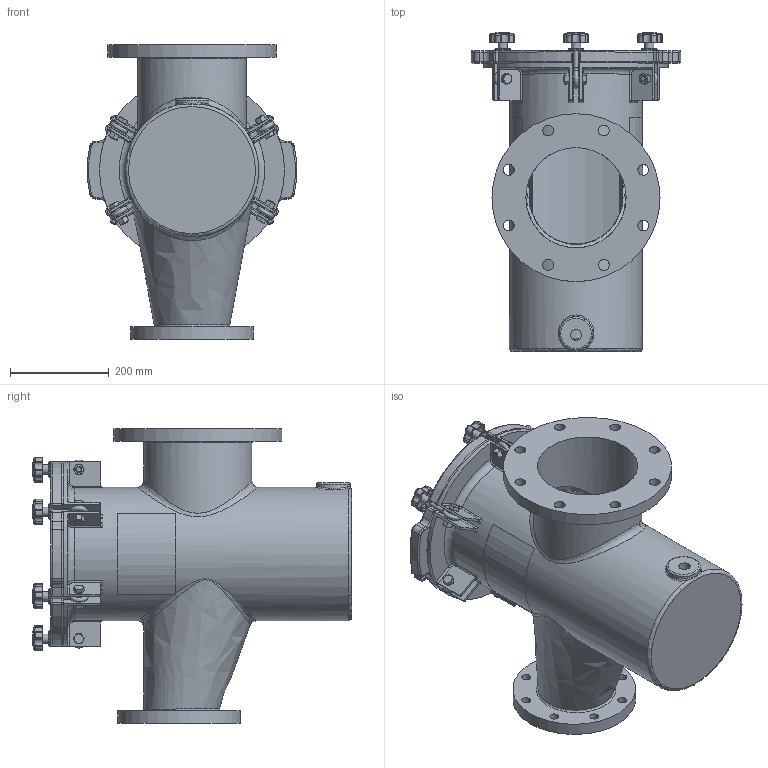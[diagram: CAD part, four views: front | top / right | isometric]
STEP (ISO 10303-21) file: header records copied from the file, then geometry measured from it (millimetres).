
FILE_DESCRIPTION(/* description */ ('200MM X 125MM FIBERGLASS STRAINER BODY'),/* implementation_level */ '2;1');
FILE_NAME(/* name */ 'E:\New folder (7)\Ready for delivery - Do not Disturb -Updated with metric Flange\Workspace\FG Reducing Strainer\Guardian FG Reducing H&L Strainer (Metric)\STRAINER H&L 200MM X 125MM.step',/* time_stamp */ '2016-10-19T04:14:37+06:00',/* author */ ('20076253'),/* organization */ (''),/* preprocessor_version */ 'ST-DEVELOPER v16.1',/* originating_system */ 'Autodesk Inventor 2016',/* authorisation */ '');
FILE_SCHEMA (('AUTOMOTIVE_DESIGN { 1 0 10303 214 3 1 1 }'));
Length unit declared in the file: inch
Products named in the file (18): NBFGBODY08X05MM; 150NBCVR48R1; 150NBGSK48R1; Perforated Basket 10in; Bride (Ring) 10in; Baffle 10in; Handle 10in; Bottom Strainer 10in; NBBSK08T316; Nut- 1_2  UNC; Bolt-1_2 x 1 1_2  UNC; EyeBolt; Washer; Knob M10; Securing Assembly For FG without Brace; Label for 10.625 inch (Right); Label for 10.625 inch (Left); STRAINER H&L 200MM X 125MM
Assembly tree (22 placements, depth 3):
  STRAINER H&L 200MM X 125MM
    NBFGBODY08X05MM
    150NBCVR48R1
    150NBGSK48R1
    NBBSK08T316
      Perforated Basket 10in
      Bride (Ring) 10in
      Baffle 10in
      Handle 10in
      Bottom Strainer 10in
    Securing Assembly For FG without Brace  x6
      Nut- 1_2  UNC
      Bolt-1_2 x 1 1_2  UNC
      EyeBolt
      Washer
      Knob M10
    Label for 10.625 inch (Right)
    Label for 10.625 inch (Left)
Bounding box: 424.18 x 646.2 x 596.9 mm (x, y, z)
Volume: 11983724.8 mm3; surface area: 2891207.4 mm2
Topology: 40 solids, 40 shells, 1268 faces, 2913 edges, 1723 vertices
Faces by surface type: cylinder 462, plane 330, cone 138, torus 124, bspline 112, sphere 102
Full cylindrical faces by diameter (mm): 3.175 x10, 6.35 x2, 8.382 x6, 9.525 x12, 10.592 x6, 12.7 x6, 15.875 x12, 17.78 x8, 19 x12, 19.05 x6, 22.098 x8, 22.809 x1, 31.75 x6, 68.263 x1, 187.325 x2, 190.5 x1, 203.2 x1, 219.075 x1, 248.92 x1, 254 x2, 266.7 x1, 269.875 x1, 276.225 x1, 311.15 x1, 317.5 x1, 340.36 x1
Entity records: 26420 total; most frequent: CARTESIAN_POINT 10496, DIRECTION 3288, ORIENTED_EDGE 2994, EDGE_CURVE 1497, AXIS2_PLACEMENT_3D 1388, VERTEX_POINT 949, EDGE_LOOP 854, CIRCLE 701
